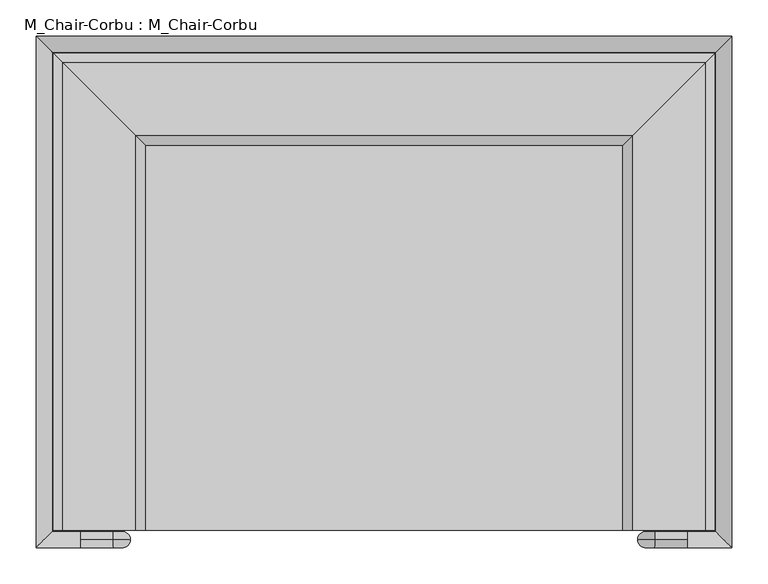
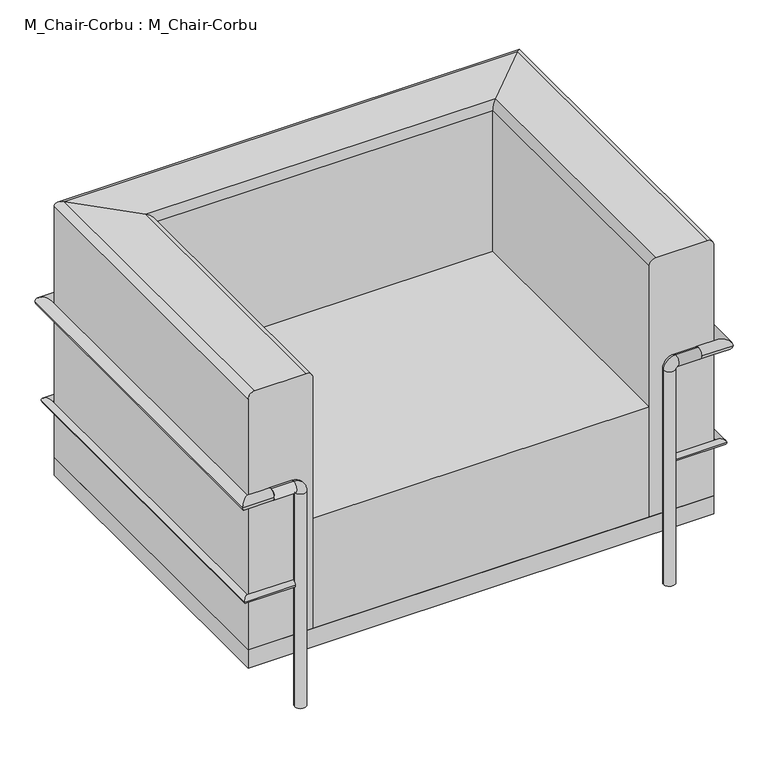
"""IFC4 building model written with IfcOpenShell, lengths in millimetres: furniture geometry, M_Chair-Corbu : M_Chair-Corbu."""

from ifc_helpers import new_model, si_unit, point, frame, frame_2d, origin, origin_with_axes, place, context, project, spatial, polyline, circle_curve, ellipse_curve, trimmed, segment, composite_curve, outline, extrude, source, transform, mapped, element, save
from ifc_brep_helpers import plane_surface, cylinder_surface, revolved_surface, advanced_brep


def m_chair_corbu_m_chair_corbu_62085674(model_context):
    return source(origin(), model_context, "Body", "SolidModel", [
        advanced_brep(
        [(115.8737705, 136.7770492, 139.7), (242.8737705, 136.7770492, 139.7), (242.8737705, 136.7770492, 660.4), (230.1737705, 136.7770492, 673.1), (128.5737705, 136.7770492, 673.1), (115.8737705, 136.7770492, 660.4), (115.8737705, 796.7770492, 139.7), (242.8737705, 669.7770492, 139.7), (242.8737705, 669.7770492, 660.4), (230.1737705, 682.4770492, 673.1), (128.5737705, 784.0770492, 673.1), (115.8737705, 796.7770492, 660.4), (1030.8737705, 796.7770492, 139.7), (903.8737705, 669.7770492, 139.7), (903.8737705, 669.7770492, 660.4), (916.5737705, 682.4770492, 673.1), (1018.1737705, 784.0770492, 673.1), (1030.8737705, 796.7770492, 660.4), (1030.8737705, 136.7770492, 139.7), (1030.8737705, 136.7770492, 660.4), (1018.1737705, 136.7770492, 673.1), (916.5737705, 136.7770492, 673.1), (903.8737705, 136.7770492, 660.4), (903.8737705, 136.7770492, 139.7)],
        [
            (0, 1),
            (1, 2),
            (2, 3, circle_curve(frame((230.1737705, 136.7770492, 660.4), z_axis=(0.0, -1.0, 0.0), x_axis=(-1.0, 0.0, 0.0)), 12.7)),
            (3, 4),
            (4, 5, circle_curve(frame((128.5737705, 136.7770492, 660.4), z_axis=(0.0, -1.0, 0.0), x_axis=(-1.0, 0.0, 0.0)), 12.7)),
            (5, 0),
            (0, 6),
            (6, 7),
            (7, 1),
            (7, 8),
            (8, 2),
            (8, 9, ellipse_curve(frame((230.1737705, 682.4770492, 660.4), z_axis=(-0.7071067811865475, -0.7071067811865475, 0.0), x_axis=(0.7071067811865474, -0.7071067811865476, 0.0)), 17.9605122, 12.7)),
            (9, 3),
            (9, 10),
            (10, 4),
            (10, 11, ellipse_curve(frame((128.5737705, 784.0770492, 660.4), z_axis=(-0.7071067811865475, -0.7071067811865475, 0.0), x_axis=(0.7071067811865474, -0.7071067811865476, 0.0)), 17.9605122, 12.7)),
            (11, 5),
            (11, 6),
            (6, 12),
            (12, 13),
            (13, 7),
            (13, 14),
            (14, 8),
            (14, 15, ellipse_curve(frame((916.5737705, 682.4770492, 660.4), z_axis=(-0.7071067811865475, 0.7071067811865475, 0.0), x_axis=(-0.7071067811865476, -0.7071067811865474, 0.0)), 17.9605122, 12.7)),
            (15, 9),
            (15, 16),
            (16, 10),
            (16, 17, ellipse_curve(frame((1018.1737705, 784.0770492, 660.4), z_axis=(-0.7071067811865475, 0.7071067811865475, 0.0), x_axis=(-0.7071067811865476, -0.7071067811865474, 0.0)), 17.9605122, 12.7)),
            (17, 11),
            (17, 12),
            (18, 19),
            (19, 20, circle_curve(frame((1018.1737705, 136.7770492, 660.4), z_axis=(0.0, -1.0, 0.0), x_axis=(1.0, 0.0, 0.0)), 12.7)),
            (20, 21),
            (21, 22, circle_curve(frame((916.5737705, 136.7770492, 660.4), z_axis=(0.0, -1.0, 0.0), x_axis=(1.0, 0.0, 0.0)), 12.7)),
            (22, 23),
            (23, 18),
            (12, 18),
            (23, 13),
            (22, 14),
            (21, 15),
            (20, 16),
            (19, 17),
        ],
        [
            plane_surface(frame((-566.8619763, 136.7770492, 0.0), z_axis=(0.0, -1.0, 0.0), x_axis=(0.0, 0.0, 1.0))),
            plane_surface(frame((115.8737705, 136.7770492, 139.7), z_axis=(0.0, 0.0, -1.0), x_axis=(0.0, 1.0, 0.0))),
            plane_surface(frame((242.8737705, 136.7770492, 139.7), z_axis=(1.0, 0.0, 0.0), x_axis=(0.0, 1.0, 0.0))),
            cylinder_surface(frame((230.1737705, 136.7770492, 660.4), z_axis=(0.0, -1.0, 0.0), x_axis=(-1.0, 0.0, 0.0)), 12.7),
            plane_surface(frame((230.1737705, 136.7770492, 673.1), z_axis=(0.0, 0.0, 1.0), x_axis=(0.0, 1.0, 0.0))),
            cylinder_surface(frame((128.5737705, 136.7770492, 660.4), z_axis=(0.0, -1.0, 0.0), x_axis=(-1.0, 0.0, 0.0)), 12.7),
            plane_surface(frame((115.8737705, 136.7770492, 660.4), z_axis=(-1.0, 0.0, 0.0), x_axis=(0.0, 1.0, 0.0))),
            plane_surface(frame((115.8737705, 796.7770492, 139.7), z_axis=(0.0, 0.0, -1.0), x_axis=(1.0, 0.0, 0.0))),
            plane_surface(frame((242.8737705, 669.7770492, 139.7), z_axis=(0.0, -1.0, 0.0), x_axis=(1.0, 0.0, 0.0))),
            cylinder_surface(frame((115.8737705, 682.4770492, 660.4), z_axis=(-1.0, 0.0, 0.0), x_axis=(0.0, 1.0, 0.0)), 12.7),
            plane_surface(frame((230.1737705, 682.4770492, 673.1), z_axis=(0.0, 0.0, 1.0), x_axis=(1.0, 0.0, 0.0))),
            cylinder_surface(frame((115.8737705, 784.0770492, 660.4), z_axis=(-1.0, 0.0, 0.0), x_axis=(0.0, 1.0, 0.0)), 12.7),
            plane_surface(frame((115.8737705, 796.7770492, 660.4), z_axis=(0.0, 1.0, 0.0), x_axis=(1.0, 0.0, 0.0))),
            plane_surface(frame((348.1380237, 136.7770492, 0.0), z_axis=(0.0, -1.0, 0.0), x_axis=(0.0, 0.0, -1.0))),
            plane_surface(frame((1030.8737705, 796.7770492, 139.7), z_axis=(0.0, 0.0, -1.0), x_axis=(0.0, -1.0, 0.0))),
            plane_surface(frame((903.8737705, 669.7770492, 139.7), z_axis=(-1.0, 0.0, 0.0), x_axis=(0.0, -1.0, 0.0))),
            cylinder_surface(frame((916.5737705, 796.7770492, 660.4), z_axis=(0.0, 1.0, 0.0), x_axis=(1.0, 0.0, 0.0)), 12.7),
            plane_surface(frame((916.5737705, 682.4770492, 673.1), z_axis=(0.0, 0.0, 1.0), x_axis=(0.0, -1.0, 0.0))),
            cylinder_surface(frame((1018.1737705, 796.7770492, 660.4), z_axis=(0.0, 1.0, 0.0), x_axis=(1.0, 0.0, 0.0)), 12.7),
            plane_surface(frame((1030.8737705, 796.7770492, 660.4), z_axis=(1.0, 0.0, 0.0), x_axis=(0.0, -1.0, 0.0))),
        ],
        [
            (0, [[1, 2, 3, 4, 5, 6]]),
            (1, [[-1, 7, 8, 9]]),
            (2, [[-2, -9, 10, 11]]),
            (3, [[-3, -11, 12, 13]]),
            (4, [[-4, -13, 14, 15]]),
            (5, [[-5, -15, 16, 17]]),
            (6, [[-6, -17, 18, -7]]),
            (7, [[-8, 19, 20, 21]]),
            (8, [[-10, -21, 22, 23]]),
            (9, [[-12, -23, 24, 25]]),
            (10, [[-14, -25, 26, 27]]),
            (11, [[-16, -27, 28, 29]]),
            (12, [[-18, -29, 30, -19]]),
            (13, [[31, 32, 33, 34, 35, 36]]),
            (14, [[-20, 37, -36, 38]]),
            (15, [[-22, -38, -35, 39]]),
            (16, [[-24, -39, -34, 40]]),
            (17, [[-26, -40, -33, 41]]),
            (18, [[-28, -41, -32, 42]]),
            (19, [[-30, -42, -31, -37]]),
        ],
    ),
        advanced_brep(
        [(946.7362705, 124.0770492, 0.0), (924.5112705, 124.0770492, 0.0), (946.7362705, 124.0770492, 444.5), (924.5112705, 124.0770492, 444.5), (948.3237705, 124.0770492, 468.3125), (948.3237705, 124.0770492, 446.0875), (992.7737705, 124.0770492, 446.0875), (992.7737705, 124.0770492, 468.3125)],
        [
            (0, 1, circle_curve(frame((935.6237705, 124.0770492, 0.0), z_axis=(0.0, 0.0, -1.0), x_axis=(-1.0, 0.0, 0.0)), 11.1125)),
            (1, 0, circle_curve(frame((935.6237705, 124.0770492, 0.0), z_axis=(0.0, 0.0, -1.0), x_axis=(-1.0, 0.0, 0.0)), 11.1125)),
            (0, 2),
            (2, 3, circle_curve(frame((935.6237705, 124.0770492, 444.5), z_axis=(0.0, 0.0, -1.0), x_axis=(-1.0, 0.0, 0.0)), 11.1125)),
            (3, 1),
            (3, 2, circle_curve(frame((935.6237705, 124.0770492, 444.5), z_axis=(0.0, 0.0, -1.0), x_axis=(-1.0, 0.0, 0.0)), 11.1125)),
            (4, 3, circle_curve(frame((948.3237705, 124.0770492, 444.5), z_axis=(0.0, -1.0, 0.0), x_axis=(-1.0, 0.0, 0.0)), 23.8125)),
            (2, 5, circle_curve(frame((948.3237705, 124.0770492, 444.5), z_axis=(0.0, 1.0, 0.0), x_axis=(-1.0, 0.0, 0.0)), 1.5875)),
            (5, 4, circle_curve(frame((948.3237705, 124.0770492, 457.2), z_axis=(-1.0, 0.0, 0.0), x_axis=(0.0, 0.0, 1.0)), 11.1125)),
            (4, 5, circle_curve(frame((948.3237705, 124.0770492, 457.2), z_axis=(-1.0, 0.0, 0.0), x_axis=(0.0, 0.0, 1.0)), 11.1125)),
            (6, 7, circle_curve(frame((992.7737705, 124.0770492, 457.2), z_axis=(1.0, 0.0, 0.0), x_axis=(0.0, 0.0, 1.0)), 11.1125)),
            (7, 6, circle_curve(frame((992.7737705, 124.0770492, 457.2), z_axis=(1.0, 0.0, 0.0), x_axis=(0.0, 0.0, 1.0)), 11.1125)),
            (5, 6),
            (7, 4),
        ],
        [
            plane_surface(frame((935.6237705, 112.5909011, 0.0), z_axis=(0.0, 0.0, -1.0), x_axis=(1.0, 0.0, 0.0))),
            cylinder_surface(frame((935.6237705, 124.0770492, 0.0), z_axis=(0.0, 0.0, -1.0), x_axis=(-1.0, 0.0, 0.0)), 11.1125),
            revolved_surface(trimmed(ellipse_curve(frame((935.6237705, 124.0770492, 444.5), z_axis=(0.0, 0.0, -1.0), x_axis=(-1.0, 0.0, 0.0)), 11.1125, 11.1125), [point((946.7362705, 124.0770492, 444.5))], [point((924.5112705, 124.0770492, 444.5))], True, "CARTESIAN"), (948.3237705, 123.8770492, 444.5), (0.0, 1.0, 0.0)),
            revolved_surface(trimmed(ellipse_curve(frame((935.6237705, 124.0770492, 444.5), z_axis=(0.0, 0.0, -1.0), x_axis=(-1.0, 0.0, 0.0)), 11.1125, 11.1125), [point((924.5112705, 124.0770492, 444.5))], [point((946.7362705, 124.0770492, 444.5))], True, "CARTESIAN"), (948.3237705, 123.8770492, 444.5), (0.0, 1.0, 0.0)),
            plane_surface(frame((992.7737705, 123.8770492, 445.9138519), z_axis=(1.0, 0.0, 0.0), x_axis=(0.0, 1.0, 0.0))),
            cylinder_surface(frame((948.3237705, 124.0770492, 457.2), z_axis=(-1.0, 0.0, 0.0), x_axis=(0.0, 0.0, 1.0)), 11.1125),
        ],
        [
            (0, [[1, 2]]),
            (1, [[-1, 3, 4, 5]]),
            (1, [[-2, -5, 6, -3]]),
            (2, [[7, -4, 8, 9]]),
            (3, [[-8, -6, -7, 10]]),
            (4, [[11, 12]]),
            (5, [[-9, 13, -12, 14]]),
            (5, [[-10, -14, -11, -13]]),
        ],
    ),
        advanced_brep(
        [(222.2362705, 124.0770492, 0.0), (200.0112705, 124.0770492, 0.0), (222.2362705, 124.0770492, 444.5), (200.0112705, 124.0770492, 444.5), (198.4237705, 124.0770492, 446.0875), (198.4237705, 124.0770492, 468.3125), (153.9737705, 124.0770492, 468.3125), (153.9737705, 124.0770492, 446.0875)],
        [
            (0, 1, circle_curve(frame((211.1237705, 124.0770492, 0.0), z_axis=(0.0, 0.0, -1.0), x_axis=(-1.0, 0.0, 0.0)), 11.1125)),
            (1, 0, circle_curve(frame((211.1237705, 124.0770492, 0.0), z_axis=(0.0, 0.0, -1.0), x_axis=(-1.0, 0.0, 0.0)), 11.1125)),
            (0, 2),
            (2, 3, circle_curve(frame((211.1237705, 124.0770492, 444.5), z_axis=(0.0, 0.0, -1.0), x_axis=(-1.0, 0.0, 0.0)), 11.1125)),
            (3, 1),
            (3, 2, circle_curve(frame((211.1237705, 124.0770492, 444.5), z_axis=(0.0, 0.0, -1.0), x_axis=(-1.0, 0.0, 0.0)), 11.1125)),
            (4, 3, circle_curve(frame((198.4237705, 124.0770492, 444.5), z_axis=(0.0, 1.0, 0.0), x_axis=(1.0, 0.0, 0.0)), 1.5875)),
            (2, 5, circle_curve(frame((198.4237705, 124.0770492, 444.5), z_axis=(0.0, -1.0, 0.0), x_axis=(1.0, 0.0, 0.0)), 23.8125)),
            (5, 4, circle_curve(frame((198.4237705, 124.0770492, 457.2), z_axis=(1.0, 0.0, 0.0), x_axis=(0.0, 0.0, -1.0)), 11.1125)),
            (4, 5, circle_curve(frame((198.4237705, 124.0770492, 457.2), z_axis=(1.0, 0.0, 0.0), x_axis=(0.0, 0.0, -1.0)), 11.1125)),
            (6, 7, circle_curve(frame((153.9737705, 124.0770492, 457.2), z_axis=(-1.0, 0.0, 0.0), x_axis=(0.0, 0.0, -1.0)), 11.1125)),
            (7, 6, circle_curve(frame((153.9737705, 124.0770492, 457.2), z_axis=(-1.0, 0.0, 0.0), x_axis=(0.0, 0.0, -1.0)), 11.1125)),
            (5, 6),
            (7, 4),
        ],
        [
            plane_surface(frame((211.1237705, 112.5909011, 0.0), z_axis=(0.0, 0.0, -1.0), x_axis=(1.0, 0.0, 0.0))),
            cylinder_surface(frame((211.1237705, 124.0770492, 0.0), z_axis=(0.0, 0.0, -1.0), x_axis=(-1.0, 0.0, 0.0)), 11.1125),
            revolved_surface(trimmed(ellipse_curve(frame((211.1237705, 124.0770492, 444.5), z_axis=(0.0, 0.0, -1.0), x_axis=(-1.0, 0.0, 0.0)), 11.1125, 11.1125), [point((222.2362705, 124.0770492, 444.5))], [point((200.0112705, 124.0770492, 444.5))], True, "CARTESIAN"), (198.4237705, 123.8770492, 444.5), (0.0, -1.0, 0.0)),
            revolved_surface(trimmed(ellipse_curve(frame((211.1237705, 124.0770492, 444.5), z_axis=(0.0, 0.0, -1.0), x_axis=(-1.0, 0.0, 0.0)), 11.1125, 11.1125), [point((200.0112705, 124.0770492, 444.5))], [point((222.2362705, 124.0770492, 444.5))], True, "CARTESIAN"), (198.4237705, 123.8770492, 444.5), (0.0, -1.0, 0.0)),
            plane_surface(frame((153.9737705, 123.8770492, 445.9138519), z_axis=(-1.0, 0.0, 0.0), x_axis=(0.0, -1.0, 0.0))),
            cylinder_surface(frame((198.4237705, 124.0770492, 457.2), z_axis=(1.0, 0.0, 0.0), x_axis=(0.0, 0.0, -1.0)), 11.1125),
        ],
        [
            (0, [[1, 2]]),
            (1, [[-1, 3, 4, 5]]),
            (1, [[-2, -5, 6, -3]]),
            (2, [[7, -4, 8, 9]]),
            (3, [[-8, -6, -7, 10]]),
            (4, [[11, 12]]),
            (5, [[-9, 13, -12, 14]]),
            (5, [[-10, -14, -11, -13]]),
        ],
    ),
        advanced_brep(
        [(201.5987705, 133.6020492, 254.0), (201.5987705, 120.9020492, 254.0), (112.6987705, 133.6020492, 254.0), (99.9987705, 120.9020492, 254.0), (112.6987705, 799.9520492, 254.0), (99.9987705, 812.6520492, 254.0), (1034.0487705, 799.9520492, 254.0), (1046.7487705, 812.6520492, 254.0), (1034.0487705, 133.6020492, 254.0), (1046.7487705, 120.9020492, 254.0), (945.1487705, 133.6020492, 254.0), (945.1487705, 120.9020492, 254.0)],
        [
            (0, 1, circle_curve(frame((201.5987705, 127.2520492, 254.0), z_axis=(1.0, 0.0, 0.0), x_axis=(0.0, -1.0, 0.0)), 6.35)),
            (1, 0, circle_curve(frame((201.5987705, 127.2520492, 254.0), z_axis=(1.0, 0.0, 0.0), x_axis=(0.0, -1.0, 0.0)), 6.35)),
            (0, 2),
            (2, 3, ellipse_curve(frame((106.3487705, 127.2520492, 254.0), z_axis=(0.7071067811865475, -0.7071067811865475, 0.0), x_axis=(0.7071067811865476, 0.7071067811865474, 0.0)), 8.9802561, 6.35)),
            (3, 1),
            (3, 2, ellipse_curve(frame((106.3487705, 127.2520492, 254.0), z_axis=(0.7071067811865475, -0.7071067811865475, 0.0), x_axis=(0.7071067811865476, 0.7071067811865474, 0.0)), 8.9802561, 6.35)),
            (2, 4),
            (4, 5, ellipse_curve(frame((106.3487705, 806.3020492, 254.0), z_axis=(-0.7071067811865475, -0.7071067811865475, 0.0), x_axis=(0.7071067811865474, -0.7071067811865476, 0.0)), 8.9802561, 6.35)),
            (5, 3),
            (5, 4, ellipse_curve(frame((106.3487705, 806.3020492, 254.0), z_axis=(-0.7071067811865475, -0.7071067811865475, 0.0), x_axis=(0.7071067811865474, -0.7071067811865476, 0.0)), 8.9802561, 6.35)),
            (4, 6),
            (6, 7, ellipse_curve(frame((1040.3987705, 806.3020492, 254.0), z_axis=(-0.7071067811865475, 0.7071067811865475, 0.0), x_axis=(-0.7071067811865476, -0.7071067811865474, 0.0)), 8.9802561, 6.35)),
            (7, 5),
            (7, 6, ellipse_curve(frame((1040.3987705, 806.3020492, 254.0), z_axis=(-0.7071067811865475, 0.7071067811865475, 0.0), x_axis=(-0.7071067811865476, -0.7071067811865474, 0.0)), 8.9802561, 6.35)),
            (6, 8),
            (8, 9, ellipse_curve(frame((1040.3987705, 127.2520492, 254.0), z_axis=(0.7071067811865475, 0.7071067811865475, 0.0), x_axis=(-0.7071067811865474, 0.7071067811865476, 0.0)), 8.9802561, 6.35)),
            (9, 7),
            (9, 8, ellipse_curve(frame((1040.3987705, 127.2520492, 254.0), z_axis=(0.7071067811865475, 0.7071067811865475, 0.0), x_axis=(-0.7071067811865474, 0.7071067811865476, 0.0)), 8.9802561, 6.35)),
            (10, 11, circle_curve(frame((945.1487705, 127.2520492, 254.0), z_axis=(-1.0, 0.0, 0.0), x_axis=(0.0, -1.0, 0.0)), 6.35)),
            (11, 10, circle_curve(frame((945.1487705, 127.2520492, 254.0), z_axis=(-1.0, 0.0, 0.0), x_axis=(0.0, -1.0, 0.0)), 6.35)),
            (8, 10),
            (11, 9),
        ],
        [
            plane_surface(frame((201.5987705, 127.2520492, -259.5186838), z_axis=(1.0, 0.0, 0.0), x_axis=(0.0, -1.0, 0.0))),
            cylinder_surface(frame((201.5987705, 127.2520492, 254.0), z_axis=(1.0, 0.0, 0.0), x_axis=(0.0, -1.0, 0.0)), 6.35),
            cylinder_surface(frame((106.3487705, 127.2520492, 254.0), z_axis=(0.0, -1.0, 0.0), x_axis=(-1.0, 0.0, 0.0)), 6.35),
            cylinder_surface(frame((106.3487705, 806.3020492, 254.0), z_axis=(-1.0, 0.0, 0.0), x_axis=(0.0, 1.0, 0.0)), 6.35),
            cylinder_surface(frame((1040.3987705, 806.3020492, 254.0), z_axis=(0.0, 1.0, 0.0), x_axis=(1.0, 0.0, 0.0)), 6.35),
            plane_surface(frame((945.1487705, 127.2520492, -259.5186838), z_axis=(-1.0, 0.0, 0.0), x_axis=(0.0, -1.0, 0.0))),
            cylinder_surface(frame((1040.3987705, 127.2520492, 254.0), z_axis=(1.0, 0.0, 0.0), x_axis=(0.0, -1.0, 0.0)), 6.35),
        ],
        [
            (0, [[1, 2]]),
            (1, [[-1, 3, 4, 5]]),
            (1, [[-2, -5, 6, -3]]),
            (2, [[-4, 7, 8, 9]]),
            (2, [[-6, -9, 10, -7]]),
            (3, [[-8, 11, 12, 13]]),
            (3, [[-10, -13, 14, -11]]),
            (4, [[-12, 15, 16, 17]]),
            (4, [[-14, -17, 18, -15]]),
            (5, [[19, 20]]),
            (6, [[-16, 21, -20, 22]]),
            (6, [[-18, -22, -19, -21]]),
        ],
    ),
        advanced_brep(
        [(153.9737705, 135.1895492, 457.2), (153.9737705, 112.9645492, 457.2), (114.2862705, 135.1895492, 457.2), (92.0612705, 112.9645492, 457.2), (114.2862705, 798.3645492, 457.2), (92.0612705, 820.5895492, 457.2), (1032.4612705, 798.3645492, 457.2), (1054.6862705, 820.5895492, 457.2), (1032.4612705, 135.1895492, 457.2), (1054.6862705, 112.9645492, 457.2), (992.7737705, 135.1895492, 457.2), (992.7737705, 112.9645492, 457.2)],
        [
            (0, 1, circle_curve(frame((153.9737705, 124.0770492, 457.2), z_axis=(1.0, 0.0, 0.0), x_axis=(0.0, -1.0, 0.0)), 11.1125)),
            (1, 0, circle_curve(frame((153.9737705, 124.0770492, 457.2), z_axis=(1.0, 0.0, 0.0), x_axis=(0.0, -1.0, 0.0)), 11.1125)),
            (0, 2),
            (2, 3, ellipse_curve(frame((103.1737705, 124.0770492, 457.2), z_axis=(0.7071067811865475, -0.7071067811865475, 0.0), x_axis=(0.7071067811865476, 0.7071067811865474, 0.0)), 15.7154482, 11.1125)),
            (3, 1),
            (3, 2, ellipse_curve(frame((103.1737705, 124.0770492, 457.2), z_axis=(0.7071067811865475, -0.7071067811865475, 0.0), x_axis=(0.7071067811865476, 0.7071067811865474, 0.0)), 15.7154482, 11.1125)),
            (2, 4),
            (4, 5, ellipse_curve(frame((103.1737705, 809.4770492, 457.2), z_axis=(-0.7071067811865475, -0.7071067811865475, 0.0), x_axis=(0.7071067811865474, -0.7071067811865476, 0.0)), 15.7154482, 11.1125)),
            (5, 3),
            (5, 4, ellipse_curve(frame((103.1737705, 809.4770492, 457.2), z_axis=(-0.7071067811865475, -0.7071067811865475, 0.0), x_axis=(0.7071067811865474, -0.7071067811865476, 0.0)), 15.7154482, 11.1125)),
            (4, 6),
            (6, 7, ellipse_curve(frame((1043.5737705, 809.4770492, 457.2), z_axis=(-0.7071067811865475, 0.7071067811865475, 0.0), x_axis=(-0.7071067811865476, -0.7071067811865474, 0.0)), 15.7154482, 11.1125)),
            (7, 5),
            (7, 6, ellipse_curve(frame((1043.5737705, 809.4770492, 457.2), z_axis=(-0.7071067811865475, 0.7071067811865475, 0.0), x_axis=(-0.7071067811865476, -0.7071067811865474, 0.0)), 15.7154482, 11.1125)),
            (6, 8),
            (8, 9, ellipse_curve(frame((1043.5737705, 124.0770492, 457.2), z_axis=(0.7071067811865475, 0.7071067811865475, 0.0), x_axis=(-0.7071067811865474, 0.7071067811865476, 0.0)), 15.7154482, 11.1125)),
            (9, 7),
            (9, 8, ellipse_curve(frame((1043.5737705, 124.0770492, 457.2), z_axis=(0.7071067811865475, 0.7071067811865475, 0.0), x_axis=(-0.7071067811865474, 0.7071067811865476, 0.0)), 15.7154482, 11.1125)),
            (10, 11, circle_curve(frame((992.7737705, 124.0770492, 457.2), z_axis=(-1.0, 0.0, 0.0), x_axis=(0.0, -1.0, 0.0)), 11.1125)),
            (11, 10, circle_curve(frame((992.7737705, 124.0770492, 457.2), z_axis=(-1.0, 0.0, 0.0), x_axis=(0.0, -1.0, 0.0)), 11.1125)),
            (8, 10),
            (11, 9),
        ],
        [
            plane_surface(frame((153.9737705, 124.0770492, -466.8567721), z_axis=(1.0, 0.0, 0.0), x_axis=(0.0, -1.0, 0.0))),
            cylinder_surface(frame((153.9737705, 124.0770492, 457.2), z_axis=(1.0, 0.0, 0.0), x_axis=(0.0, -1.0, 0.0)), 11.1125),
            cylinder_surface(frame((103.1737705, 124.0770492, 457.2), z_axis=(0.0, -1.0, 0.0), x_axis=(-1.0, 0.0, 0.0)), 11.1125),
            cylinder_surface(frame((103.1737705, 809.4770492, 457.2), z_axis=(-1.0, 0.0, 0.0), x_axis=(0.0, 1.0, 0.0)), 11.1125),
            cylinder_surface(frame((1043.5737705, 809.4770492, 457.2), z_axis=(0.0, 1.0, 0.0), x_axis=(1.0, 0.0, 0.0)), 11.1125),
            plane_surface(frame((992.7737705, 124.0770492, -466.8567721), z_axis=(-1.0, 0.0, 0.0), x_axis=(0.0, -1.0, 0.0))),
            cylinder_surface(frame((1043.5737705, 124.0770492, 457.2), z_axis=(1.0, 0.0, 0.0), x_axis=(0.0, -1.0, 0.0)), 11.1125),
        ],
        [
            (0, [[1, 2]]),
            (1, [[-1, 3, 4, 5]]),
            (1, [[-2, -5, 6, -3]]),
            (2, [[-4, 7, 8, 9]]),
            (2, [[-6, -9, 10, -7]]),
            (3, [[-8, 11, 12, 13]]),
            (3, [[-10, -13, 14, -11]]),
            (4, [[-12, 15, 16, 17]]),
            (4, [[-14, -17, 18, -15]]),
            (5, [[19, 20]]),
            (6, [[-16, 21, -20, 22]]),
            (6, [[-18, -22, -19, -21]]),
        ],
    ),
        extrude(outline(polyline([(903.8737705, 669.7770492), (903.8737705, 136.7770492), (242.8737705, 136.7770492), (242.8737705, 669.7770492), (903.8737705, 669.7770492)])), frame((0.0, 0.0, 139.7), z_axis=(0.0, 0.0, 1.0), x_axis=(1.0, 0.0, 0.0)), (0.0, 0.0, 1.0), 228.6),
        extrude(outline(polyline([(1030.8737705, 796.7770492), (1030.8737705, 136.7770492), (115.8737705, 136.7770492), (115.8737705, 796.7770492), (1030.8737705, 796.7770492)])), frame((0.0, 0.0, 101.6), z_axis=(0.0, 0.0, 1.0), x_axis=(1.0, 0.0, 0.0)), (0.0, 0.0, 1.0), 38.1),
        extrude(outline(composite_curve([segment(trimmed(circle_curve(frame_2d((211.1237705, 809.4770492)), 11.1125), [point((200.0112705, 809.4770492))], [point((222.2362705, 809.4770492))], False, "CARTESIAN"), True, "CONTINUOUS"), segment(trimmed(circle_curve(frame_2d((211.1237705, 809.4770492)), 11.1125), [point((222.2362705, 809.4770492))], [point((200.0112705, 809.4770492))], False, "CARTESIAN"), True, "CONTINUOUS")], self_intersect=False)), origin_with_axes(), (0.0, 0.0, 1.0), 457.2),
        extrude(outline(composite_curve([segment(trimmed(circle_curve(frame_2d((935.6237705, 809.4770492)), 11.1125), [point((946.7362705, 809.4770492))], [point((924.5112705, 809.4770492))], False, "CARTESIAN"), True, "CONTINUOUS"), segment(trimmed(circle_curve(frame_2d((935.6237705, 809.4770492)), 11.1125), [point((924.5112705, 809.4770492))], [point((946.7362705, 809.4770492))], False, "CARTESIAN"), True, "CONTINUOUS")], self_intersect=False)), origin_with_axes(), (0.0, 0.0, 1.0), 457.2),
    ])


if __name__ == "__main__":
    model = new_model("IFC4")
    model_context = context("Model", 3, world=origin())
    ifc_project = project(units=[si_unit("LENGTHUNIT", "METRE", prefix="MILLI")], contexts=[model_context])
    site = spatial("IfcSite", under=ifc_project)
    building = spatial("IfcBuilding", under=site)
    placement = place(None, origin())
    m_chair_corbu_m_chair_corbu_shape = m_chair_corbu_m_chair_corbu_62085674(model_context)
    element("IfcFurniture", 1, ObjectType="M_Chair-Corbu : M_Chair-Corbu", at=placement, inside=building, context=model_context, shape_type="MappedRepresentation", body=[
        mapped(m_chair_corbu_m_chair_corbu_shape, transform((0.0, 0.0, 0.0), x_axis=(1.0, 0.0, 0.0), y_axis=(0.0, 1.0, 0.0), z_axis=(0.0, 0.0, 1.0))),
    ])
    save(model, "model.ifc")
